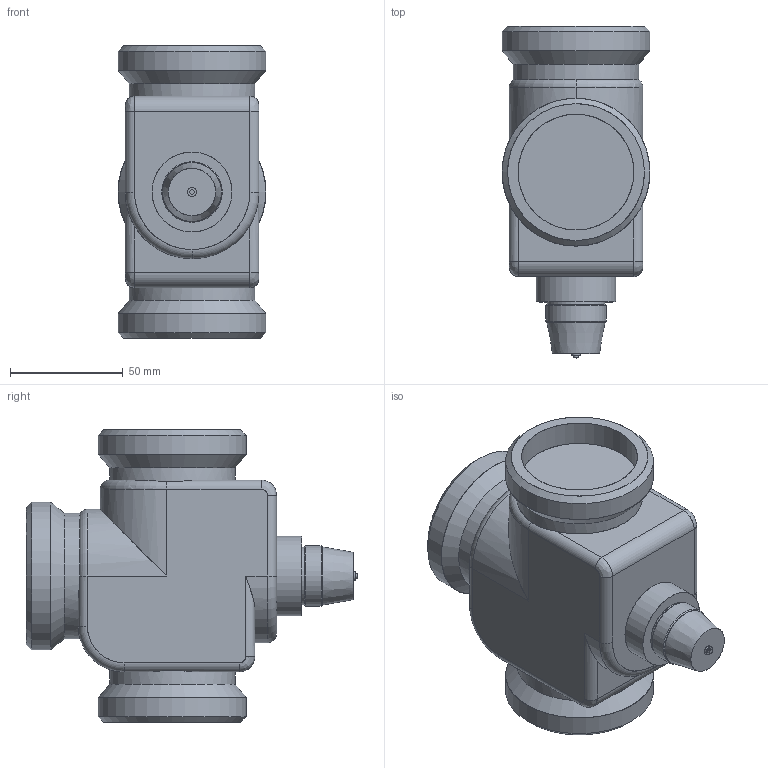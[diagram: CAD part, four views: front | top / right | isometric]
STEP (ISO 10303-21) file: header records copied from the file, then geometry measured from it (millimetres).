
FILE_DESCRIPTION(/* description */ (''),/* implementation_level */ '2;1');
FILE_NAME(/* name */ 'VXG44 DN40.stp',/* time_stamp */ '2013-10-01T15:06:12+02:00',/* author */ (''),/* organization */ (''),/* preprocessor_version */ 'ST-DEVELOPER v11',/* originating_system */ 'SIEMENS UGS NX 6.0',/* authorisation */ '');
FILE_SCHEMA (('AUTOMOTIVE_DESIGN { 1 0 10303 214 1 1 1 1 }'));
Length unit declared in the file: millimetre
Products named in the file (1): model2
Bounding box: 65.71 x 147.5 x 130 mm (x, y, z)
Surface area: 68973.3 mm2 (no closed solid volume)
Topology: 0 solids, 92 shells, 92 faces, 462 edges, 440 vertices
Faces by surface type: cylinder 36, plane 35, cone 9, torus 8, bspline 4
Full cylindrical faces by diameter (mm): 2 x1, 4 x1, 25.5 x1, 26.9 x1, 35.541 x1, 51.441 x3, 55.806 x3, 65.71 x3
Entity records: 7194 total; most frequent: CARTESIAN_POINT 3276, DIRECTION 570, ORIENTED_EDGE 439, VERTEX_POINT 439, EDGE_CURVE 439, AXIS2_PLACEMENT_3D 236, B_SPLINE_CURVE_WITH_KNOTS 178, CIRCLE 147
